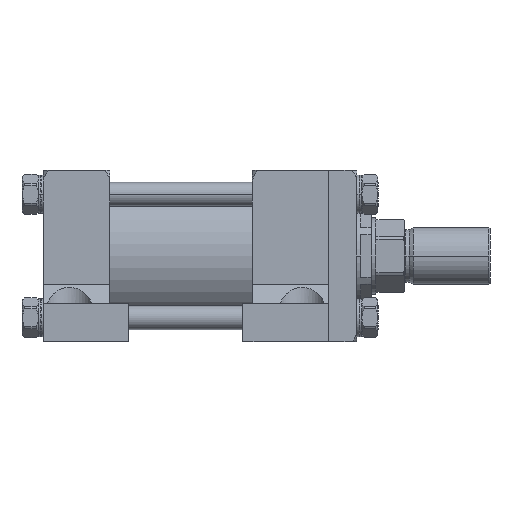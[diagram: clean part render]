
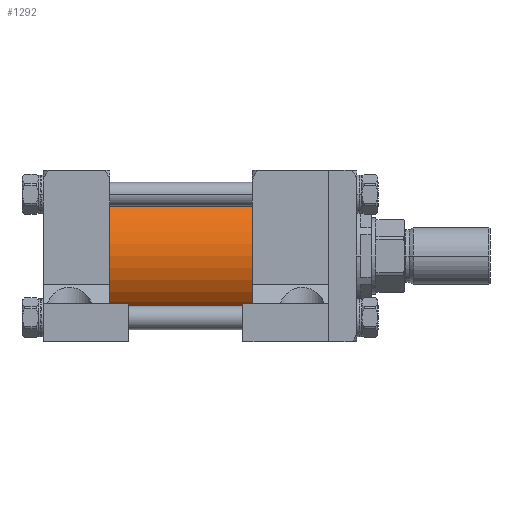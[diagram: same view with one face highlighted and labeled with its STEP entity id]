
A CAD part, front view. The second image highlights one B-rep face of the part: STEP entity #1292.
In plain terms, the highlighted cylindrical face has radius 47.625 mm (diameter 95.25 mm), a partial arc.
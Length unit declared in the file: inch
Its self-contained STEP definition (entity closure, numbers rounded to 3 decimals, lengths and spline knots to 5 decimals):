
#793 = CIRCLE ( 'NONE', #36952, 1.875 ) ;
#935 = CARTESIAN_POINT ( 'NONE',  ( -8., 0., 0. ) ) ;
#1292 = ADVANCED_FACE ( 'NONE', ( #28485 ), #19656, .T. ) ;
#2266 = CARTESIAN_POINT ( 'NONE',  ( -3.75, 0., 1.875 ) ) ;
#2764 = VERTEX_POINT ( 'NONE', #25269 ) ;
#5642 = VECTOR ( 'NONE', #29267, 39.37008 ) ;
#14208 = EDGE_CURVE ( 'NONE', #22850, #2764, #793, .T. ) ;
#16449 = EDGE_CURVE ( 'NONE', #61437, #2764, #24083, .T. ) ;
#19620 = DIRECTION ( 'NONE',  ( 1., 0., 0. ) ) ;
#19656 = CYLINDRICAL_SURFACE ( 'NONE', #32779, 1.875 ) ;
#19702 = EDGE_LOOP ( 'NONE', ( #42350, #29151, #36438, #28984 ) ) ;
#20597 = DIRECTION ( 'NONE',  ( 1., 0., 0. ) ) ;
#21947 = DIRECTION ( 'NONE',  ( 1., 0., 0. ) ) ;
#22088 = VERTEX_POINT ( 'NONE', #42556 ) ;
#22850 = VERTEX_POINT ( 'NONE', #2266 ) ;
#24083 = LINE ( 'NONE', #33143, #5642 ) ;
#25269 = CARTESIAN_POINT ( 'NONE',  ( -3.75, 0., -1.875 ) ) ;
#25517 = DIRECTION ( 'NONE',  ( 0., 1., 0. ) ) ;
#26854 = LINE ( 'NONE', #46589, #33174 ) ;
#27774 = DIRECTION ( 'NONE',  ( 0., 1., 0. ) ) ;
#28127 = DIRECTION ( 'NONE',  ( 1., 0., 0. ) ) ;
#28485 = FACE_OUTER_BOUND ( 'NONE', #19702, .T. ) ;
#28984 = ORIENTED_EDGE ( 'NONE', *, *, #14208, .F. ) ;
#29151 = ORIENTED_EDGE ( 'NONE', *, *, #54754, .T. ) ;
#29267 = DIRECTION ( 'NONE',  ( 1., 0., 0. ) ) ;
#32779 = AXIS2_PLACEMENT_3D ( 'NONE', #935, #20597, #60538 ) ;
#33143 = CARTESIAN_POINT ( 'NONE',  ( -8., 0., -1.875 ) ) ;
#33174 = VECTOR ( 'NONE', #21947, 39.37008 ) ;
#36438 = ORIENTED_EDGE ( 'NONE', *, *, #16449, .T. ) ;
#36952 = AXIS2_PLACEMENT_3D ( 'NONE', #46579, #28127, #27774 ) ;
#42350 = ORIENTED_EDGE ( 'NONE', *, *, #54667, .F. ) ;
#42556 = CARTESIAN_POINT ( 'NONE',  ( -8., 0., 1.875 ) ) ;
#46579 = CARTESIAN_POINT ( 'NONE',  ( -3.75, 0., 0. ) ) ;
#46589 = CARTESIAN_POINT ( 'NONE',  ( -8., 0., 1.875 ) ) ;
#51769 = AXIS2_PLACEMENT_3D ( 'NONE', #58867, #19620, #25517 ) ;
#51775 = CARTESIAN_POINT ( 'NONE',  ( -8., 0., -1.875 ) ) ;
#54667 = EDGE_CURVE ( 'NONE', #22088, #22850, #26854, .T. ) ;
#54754 = EDGE_CURVE ( 'NONE', #22088, #61437, #63206, .T. ) ;
#58867 = CARTESIAN_POINT ( 'NONE',  ( -8., 0., 0. ) ) ;
#60538 = DIRECTION ( 'NONE',  ( 0., 0., -1. ) ) ;
#61437 = VERTEX_POINT ( 'NONE', #51775 ) ;
#63206 = CIRCLE ( 'NONE', #51769, 1.875 ) ;
